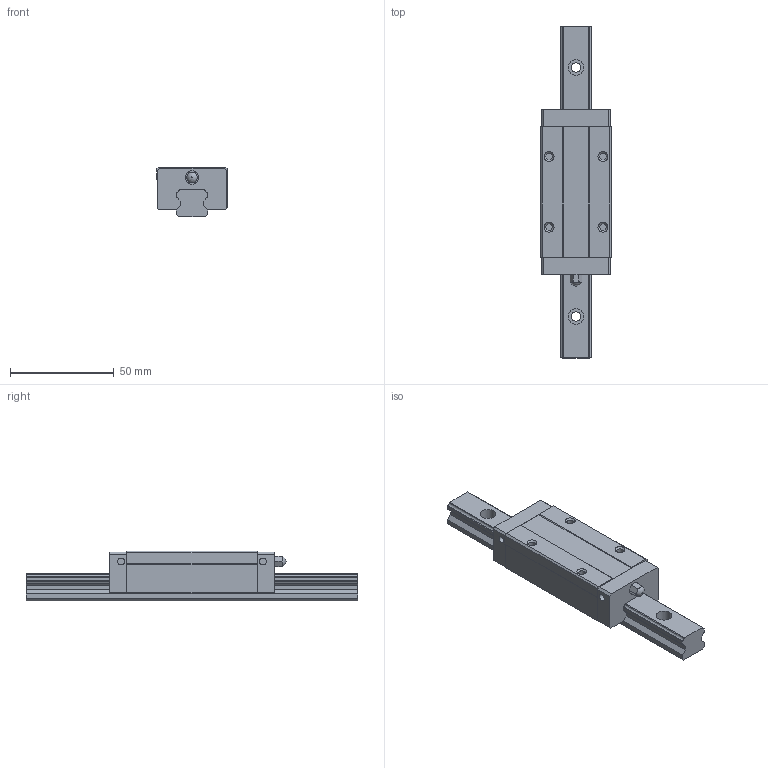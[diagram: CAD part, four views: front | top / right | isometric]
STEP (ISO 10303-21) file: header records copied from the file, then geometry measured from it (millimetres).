
FILE_DESCRIPTION(/* description */ (''),/* implementation_level */ '2;1');
FILE_NAME(/* name */ 'SME15-LSB',/* time_stamp */ '2009-06-12T14:26:44+08:00',/* author */ (''),/* organization */ (''),/* preprocessor_version */ 'ST-DEVELOPER v11',/* originating_system */ 'UGS - NX 5.0',/* authorisation */ '');
FILE_SCHEMA (('CONFIG_CONTROL_DESIGN'));
Length unit declared in the file: millimetre
Products named in the file (1): jill3C1A426a
Bounding box: 34 x 160 x 24 mm (x, y, z)
Volume: 70671.9 mm3; surface area: 22115.2 mm2
Topology: 2 solids, 3 shells, 132 faces, 342 edges, 228 vertices
Faces by surface type: plane 80, cylinder 44, cone 4, sphere 2, bspline 2
Full cylindrical faces by diameter (mm): 3.3 x8, 4 x7, 4.5 x3, 6.5 x2, 7.5 x3
Entity records: 5489 total; most frequent: CARTESIAN_POINT 2418, DIRECTION 617, ORIENTED_EDGE 580, EDGE_CURVE 290, AXIS2_PLACEMENT_3D 211, VERTEX_POINT 206, LINE 195, VECTOR 195
